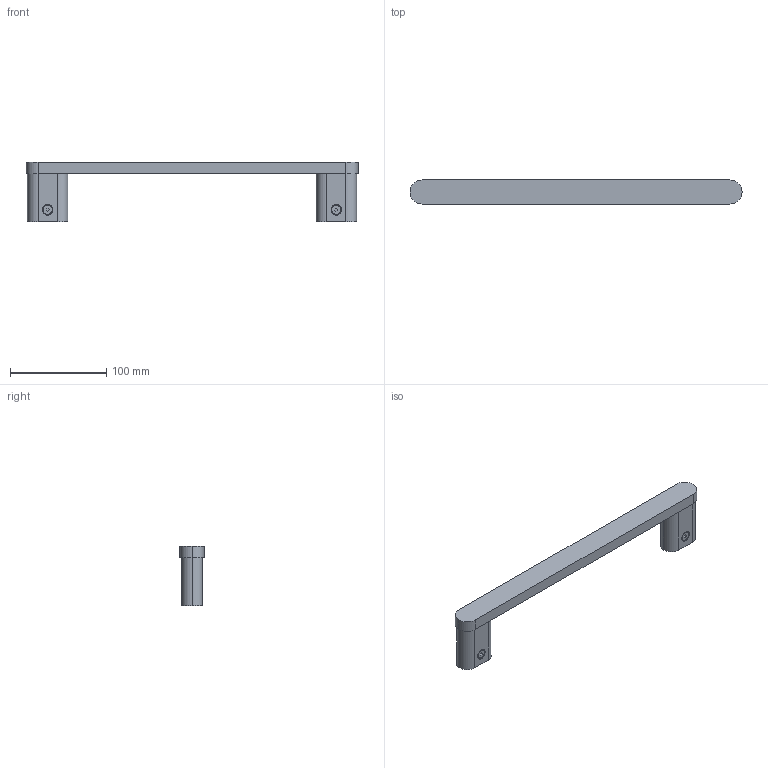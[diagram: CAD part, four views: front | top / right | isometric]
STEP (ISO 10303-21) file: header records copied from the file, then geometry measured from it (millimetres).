
FILE_DESCRIPTION (( 'STEP AP214' ), '1' );
FILE_NAME ('24056A-00-00.STEP', '2019-10-29T06:58:06', ( '' ), ( '' ), 'SwSTEP 2.0', 'SolidWorks 2011', '' );
FILE_SCHEMA (( 'AUTOMOTIVE_DESIGN' ));
Length unit declared in the file: millimetre
Products named in the file (1): 24056A-00-00
Bounding box: 345 x 25 x 62 mm (x, y, z)
Surface area: 53726.5 mm2 (no closed solid volume)
Topology: 0 solids, 7 shells, 91 faces, 259 edges, 176 vertices
Faces by surface type: plane 46, cylinder 35, cone 10
Entity records: 3987 total; most frequent: DIRECTION 547, CARTESIAN_POINT 527, ORIENTED_EDGE 430, EDGE_CURVE 259, AXIS2_PLACEMENT_3D 196, VERTEX_POINT 176, LINE 155, VECTOR 155
